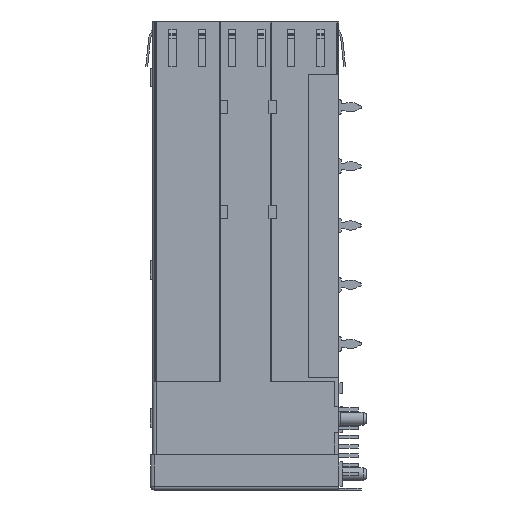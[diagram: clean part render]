
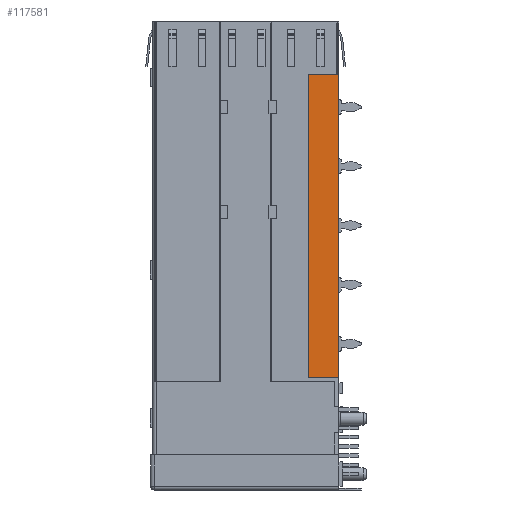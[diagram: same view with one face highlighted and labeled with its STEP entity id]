
A CAD part, left-side view. The second image highlights one B-rep face of the part: STEP entity #117581.
In plain terms, the highlighted planar face has unit normal (-1, 0, 0).
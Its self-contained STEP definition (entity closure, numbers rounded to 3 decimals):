
#4237 = CARTESIAN_POINT ( 'NONE',  ( -57.375, 0., 0. ) ) ;
#6559 = AXIS2_PLACEMENT_3D ( 'NONE', #4237, #15044, #90465 ) ;
#11237 = DIRECTION ( 'NONE',  ( 0., 0., -1. ) ) ;
#12951 = VECTOR ( 'NONE', #13506, 1000. ) ;
#13506 = DIRECTION ( 'NONE',  ( 0., 1., 0. ) ) ;
#15044 = DIRECTION ( 'NONE',  ( 1., 0., 0. ) ) ;
#21038 = CARTESIAN_POINT ( 'NONE',  ( -57.375, 0., -48.1 ) ) ;
#24030 = LINE ( 'NONE', #59456, #106720 ) ;
#33027 = CARTESIAN_POINT ( 'NONE',  ( -57.375, 4.1, -7.1 ) ) ;
#33227 = VECTOR ( 'NONE', #95733, 1000. ) ;
#43295 = VECTOR ( 'NONE', #11237, 1000. ) ;
#53107 = EDGE_LOOP ( 'NONE', ( #91890, #64658, #83486, #125391 ) ) ;
#57898 = CARTESIAN_POINT ( 'NONE',  ( -57.375, 4.1, -48.1 ) ) ;
#59456 = CARTESIAN_POINT ( 'NONE',  ( -57.375, 0., -7.1 ) ) ;
#59720 = VERTEX_POINT ( 'NONE', #33027 ) ;
#64658 = ORIENTED_EDGE ( 'NONE', *, *, #100856, .F. ) ;
#68768 = PLANE ( 'NONE',  #6559 ) ;
#75830 = CARTESIAN_POINT ( 'NONE',  ( -57.375, 0., -7.1 ) ) ;
#83486 = ORIENTED_EDGE ( 'NONE', *, *, #89133, .F. ) ;
#84911 = CARTESIAN_POINT ( 'NONE',  ( -57.375, 4.1, -7.1 ) ) ;
#89133 = EDGE_CURVE ( 'NONE', #111428, #119708, #131025, .T. ) ;
#90465 = DIRECTION ( 'NONE',  ( 0., 0., 1. ) ) ;
#90665 = FACE_OUTER_BOUND ( 'NONE', #53107, .T. ) ;
#91890 = ORIENTED_EDGE ( 'NONE', *, *, #97363, .F. ) ;
#95733 = DIRECTION ( 'NONE',  ( 0., 0., 1. ) ) ;
#97363 = EDGE_CURVE ( 'NONE', #59720, #139123, #24030, .T. ) ;
#99274 = CARTESIAN_POINT ( 'NONE',  ( -57.375, 0., -48.1 ) ) ;
#100856 = EDGE_CURVE ( 'NONE', #119708, #59720, #122743, .T. ) ;
#104661 = EDGE_CURVE ( 'NONE', #139123, #111428, #126062, .T. ) ;
#106720 = VECTOR ( 'NONE', #124102, 1000. ) ;
#109701 = CARTESIAN_POINT ( 'NONE',  ( -57.375, 0., -7.1 ) ) ;
#111428 = VERTEX_POINT ( 'NONE', #21038 ) ;
#117581 = ADVANCED_FACE ( 'NONE', ( #90665 ), #68768, .F. ) ;
#119708 = VERTEX_POINT ( 'NONE', #57898 ) ;
#122743 = LINE ( 'NONE', #84911, #33227 ) ;
#124102 = DIRECTION ( 'NONE',  ( 0., -1., 0. ) ) ;
#125391 = ORIENTED_EDGE ( 'NONE', *, *, #104661, .F. ) ;
#126062 = LINE ( 'NONE', #75830, #43295 ) ;
#131025 = LINE ( 'NONE', #99274, #12951 ) ;
#139123 = VERTEX_POINT ( 'NONE', #109701 ) ;
